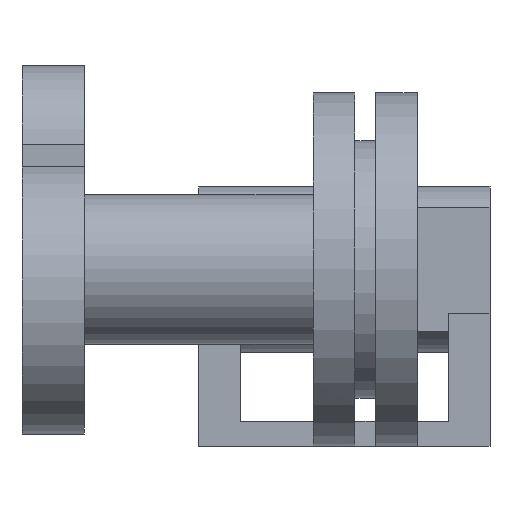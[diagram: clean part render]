
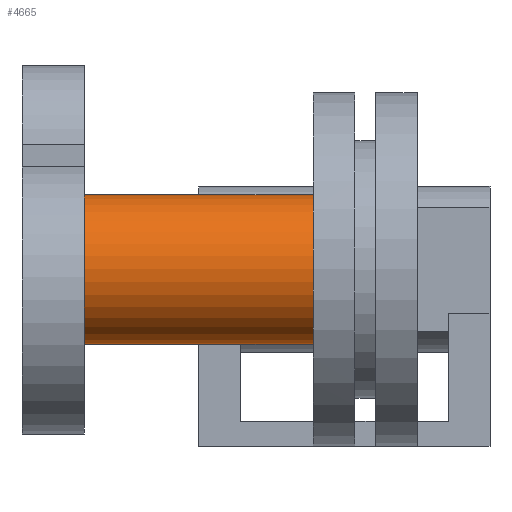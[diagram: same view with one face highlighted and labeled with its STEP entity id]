
A CAD part, left-side view. The second image highlights one B-rep face of the part: STEP entity #4665.
In plain terms, the highlighted cylindrical face has radius 3.6 mm (diameter 7.2 mm), a full revolution.
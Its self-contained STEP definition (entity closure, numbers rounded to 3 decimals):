
#155 = PLANE('',#156);
#156 = AXIS2_PLACEMENT_3D('',#157,#158,#159);
#157 = CARTESIAN_POINT('',(0.,1.5,0.));
#158 = DIRECTION('',(0.,-1.,0.));
#159 = DIRECTION('',(1.,0.,0.));
#4513 = PLANE('',#4514);
#4514 = AXIS2_PLACEMENT_3D('',#4515,#4516,#4517);
#4515 = CARTESIAN_POINT('',(1.414,12.5,-1.414));
#4516 = DIRECTION('',(0.,-1.,0.));
#4517 = DIRECTION('',(1.,0.,0.));
#4630 = EDGE_CURVE('',#4631,#4631,#4633,.T.);
#4631 = VERTEX_POINT('',#4632);
#4632 = CARTESIAN_POINT('',(3.6,12.5,0.));
#4633 = SURFACE_CURVE('',#4634,(#4639,#4650),.PCURVE_S1.);
#4634 = CIRCLE('',#4635,3.6);
#4635 = AXIS2_PLACEMENT_3D('',#4636,#4637,#4638);
#4636 = CARTESIAN_POINT('',(0.,12.5,0.
    ));
#4637 = DIRECTION('',(0.,1.,0.));
#4638 = DIRECTION('',(1.,-0.,0.));
#4639 = PCURVE('',#4513,#4640);
#4640 = DEFINITIONAL_REPRESENTATION('',(#4641),#4649);
#4641 = ( BOUNDED_CURVE() B_SPLINE_CURVE(2,(#4642,#4643,#4644,#4645,
#4646,#4647,#4648),.UNSPECIFIED.,.T.,.F.) B_SPLINE_CURVE_WITH_KNOTS((1,2
    ,2,2,2,1),(-2.094,0.,2.094,4.189,
6.283,8.378),.UNSPECIFIED.) CURVE() 
GEOMETRIC_REPRESENTATION_ITEM() RATIONAL_B_SPLINE_CURVE((1.,0.5,1.,0.5,
1.,0.5,1.)) REPRESENTATION_ITEM('') );
#4642 = CARTESIAN_POINT('',(2.186,1.414));
#4643 = CARTESIAN_POINT('',(2.186,-4.821));
#4644 = CARTESIAN_POINT('',(-3.214,-1.703));
#4645 = CARTESIAN_POINT('',(-8.614,1.414));
#4646 = CARTESIAN_POINT('',(-3.214,4.532));
#4647 = CARTESIAN_POINT('',(2.186,7.65));
#4648 = CARTESIAN_POINT('',(2.186,1.414));
#4649 = ( GEOMETRIC_REPRESENTATION_CONTEXT(2) 
PARAMETRIC_REPRESENTATION_CONTEXT() REPRESENTATION_CONTEXT('2D SPACE',''
  ) );
#4650 = PCURVE('',#4651,#4656);
#4651 = CYLINDRICAL_SURFACE('',#4652,3.6);
#4652 = AXIS2_PLACEMENT_3D('',#4653,#4654,#4655);
#4653 = CARTESIAN_POINT('',(0.,15.5,0.));
#4654 = DIRECTION('',(0.,-1.,0.));
#4655 = DIRECTION('',(1.,0.,0.));
#4656 = DEFINITIONAL_REPRESENTATION('',(#4657),#4661);
#4657 = LINE('',#4658,#4659);
#4658 = CARTESIAN_POINT('',(6.283,3.));
#4659 = VECTOR('',#4660,1.);
#4660 = DIRECTION('',(-1.,-0.));
#4661 = ( GEOMETRIC_REPRESENTATION_CONTEXT(2) 
PARAMETRIC_REPRESENTATION_CONTEXT() REPRESENTATION_CONTEXT('2D SPACE',''
  ) );
#4665 = ADVANCED_FACE('',(#4666),#4651,.T.);
#4666 = FACE_BOUND('',#4667,.T.);
#4667 = EDGE_LOOP('',(#4668,#4669,#4692,#4714));
#4668 = ORIENTED_EDGE('',*,*,#4630,.F.);
#4669 = ORIENTED_EDGE('',*,*,#4670,.T.);
#4670 = EDGE_CURVE('',#4631,#4671,#4673,.T.);
#4671 = VERTEX_POINT('',#4672);
#4672 = CARTESIAN_POINT('',(3.6,1.5,0.));
#4673 = SEAM_CURVE('',#4674,(#4678,#4685),.PCURVE_S1.);
#4674 = LINE('',#4675,#4676);
#4675 = CARTESIAN_POINT('',(3.6,15.5,0.));
#4676 = VECTOR('',#4677,1.);
#4677 = DIRECTION('',(0.,-1.,0.));
#4678 = PCURVE('',#4651,#4679);
#4679 = DEFINITIONAL_REPRESENTATION('',(#4680),#4684);
#4680 = LINE('',#4681,#4682);
#4681 = CARTESIAN_POINT('',(0.,-0.));
#4682 = VECTOR('',#4683,1.);
#4683 = DIRECTION('',(0.,1.));
#4684 = ( GEOMETRIC_REPRESENTATION_CONTEXT(2) 
PARAMETRIC_REPRESENTATION_CONTEXT() REPRESENTATION_CONTEXT('2D SPACE',''
  ) );
#4685 = PCURVE('',#4651,#4686);
#4686 = DEFINITIONAL_REPRESENTATION('',(#4687),#4691);
#4687 = LINE('',#4688,#4689);
#4688 = CARTESIAN_POINT('',(6.283,-0.));
#4689 = VECTOR('',#4690,1.);
#4690 = DIRECTION('',(0.,1.));
#4691 = ( GEOMETRIC_REPRESENTATION_CONTEXT(2) 
PARAMETRIC_REPRESENTATION_CONTEXT() REPRESENTATION_CONTEXT('2D SPACE',''
  ) );
#4692 = ORIENTED_EDGE('',*,*,#4693,.F.);
#4693 = EDGE_CURVE('',#4671,#4671,#4694,.T.);
#4694 = SURFACE_CURVE('',#4695,(#4700,#4707),.PCURVE_S1.);
#4695 = CIRCLE('',#4696,3.6);
#4696 = AXIS2_PLACEMENT_3D('',#4697,#4698,#4699);
#4697 = CARTESIAN_POINT('',(0.,1.5,0.));
#4698 = DIRECTION('',(0.,-1.,0.));
#4699 = DIRECTION('',(1.,0.,0.));
#4700 = PCURVE('',#4651,#4701);
#4701 = DEFINITIONAL_REPRESENTATION('',(#4702),#4706);
#4702 = LINE('',#4703,#4704);
#4703 = CARTESIAN_POINT('',(0.,14.));
#4704 = VECTOR('',#4705,1.);
#4705 = DIRECTION('',(1.,0.));
#4706 = ( GEOMETRIC_REPRESENTATION_CONTEXT(2) 
PARAMETRIC_REPRESENTATION_CONTEXT() REPRESENTATION_CONTEXT('2D SPACE',''
  ) );
#4707 = PCURVE('',#155,#4708);
#4708 = DEFINITIONAL_REPRESENTATION('',(#4709),#4713);
#4709 = CIRCLE('',#4710,3.6);
#4710 = AXIS2_PLACEMENT_2D('',#4711,#4712);
#4711 = CARTESIAN_POINT('',(0.,0.));
#4712 = DIRECTION('',(1.,0.));
#4713 = ( GEOMETRIC_REPRESENTATION_CONTEXT(2) 
PARAMETRIC_REPRESENTATION_CONTEXT() REPRESENTATION_CONTEXT('2D SPACE',''
  ) );
#4714 = ORIENTED_EDGE('',*,*,#4670,.F.);
